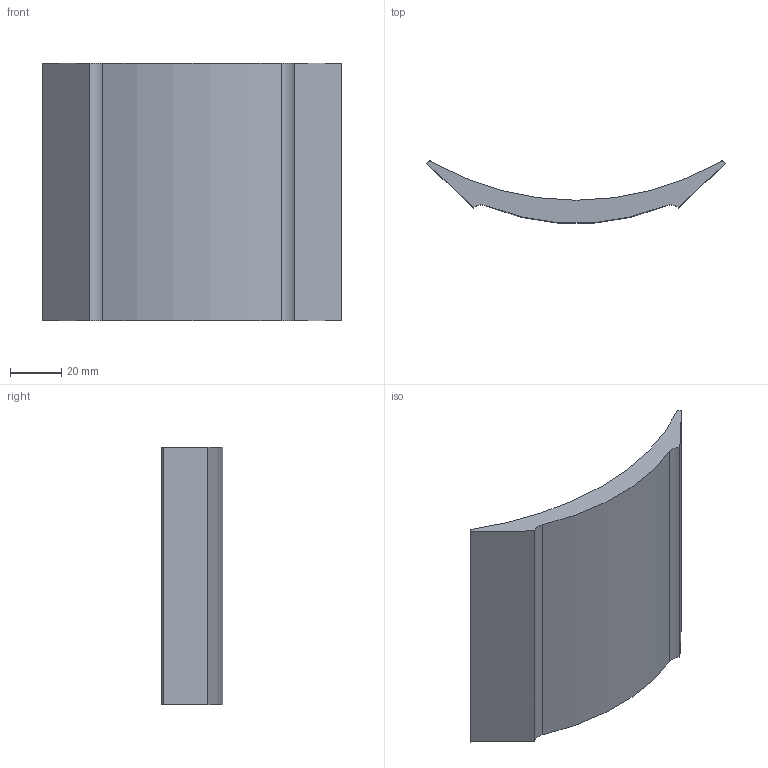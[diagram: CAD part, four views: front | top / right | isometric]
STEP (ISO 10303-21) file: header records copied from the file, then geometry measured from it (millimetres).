
FILE_DESCRIPTION (( 'STEP AP203' ), '1' );
FILE_NAME ('NOMASTYLPURE_NE3_00.step', '2017-10-18T04:56:10', ( '' ), ( '' ), 'SwSTEP 2.0', 'SolidWorks 2017', '' );
FILE_SCHEMA (( 'CONFIG_CONTROL_DESIGN' ));
Length unit declared in the file: millimetre
Products named in the file (1): NOMASTYLPURE_NE3_00
Bounding box: 115.97 x 24.01 x 100 mm (x, y, z)
Volume: 88062 mm3; surface area: 27181.9 mm2
Topology: 1 solids, 1 shells, 12 faces, 30 edges, 20 vertices
Faces by surface type: plane 6, cylinder 6
Entity records: 443 total; most frequent: DIRECTION 68, CARTESIAN_POINT 63, ORIENTED_EDGE 60, EDGE_CURVE 30, AXIS2_PLACEMENT_3D 25, VERTEX_POINT 20, LINE 18, VECTOR 18
